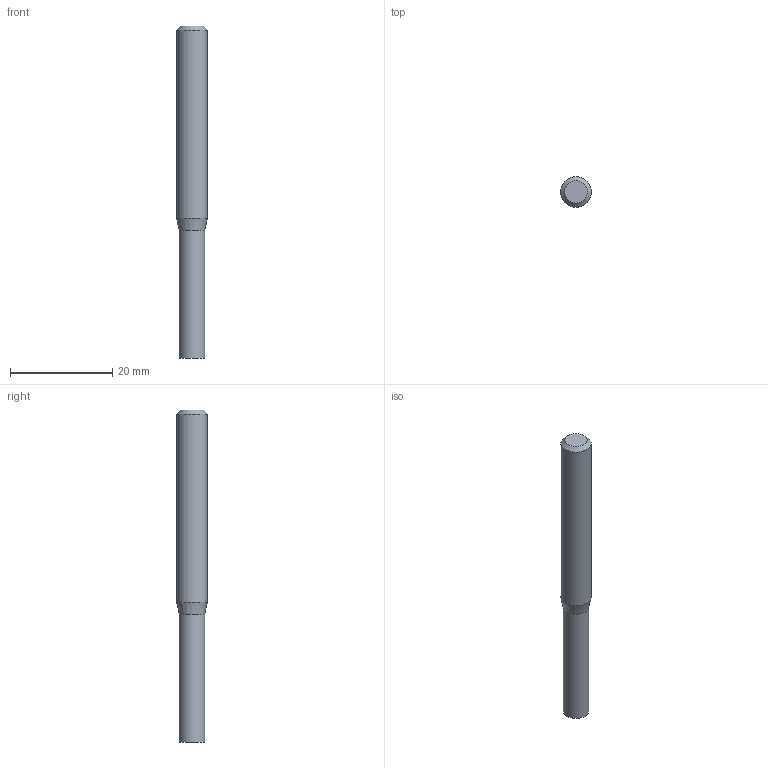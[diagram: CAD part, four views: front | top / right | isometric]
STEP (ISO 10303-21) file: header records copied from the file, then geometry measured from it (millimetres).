
FILE_DESCRIPTION((''),'2;1');
FILE_NAME('C:\Users\nsx150\AppData\Local\Temp\Mastercam 2021\E36A1X9CCL\TEMP.step','2023-04-21T15:28:16',(''),(''),'STEP Write','Mastercam 2021 ... CNC Software, Inc.','');
FILE_SCHEMA(('AUTOMOTIVE_DESIGN'));
Length unit declared in the file: millimetre
Products named in the file (1): None
Bounding box: 6 x 6 x 65 mm (x, y, z)
Volume: 1605.9 mm3; surface area: 1221.4 mm2
Topology: 2 solids, 2 shells, 8 faces, 10 edges, 6 vertices
Faces by surface type: plane 4, cylinder 2, cone 2
Full cylindrical faces by diameter (mm): 5 x1, 6 x1
Entity records: 190 total; most frequent: DIRECTION 32, CARTESIAN_POINT 22, AXIS2_PLACEMENT_3D 16, ORIENTED_EDGE 12, EDGE_LOOP 12, STYLED_ITEM 11, ADVANCED_FACE 8, VERTEX_POINT 6
